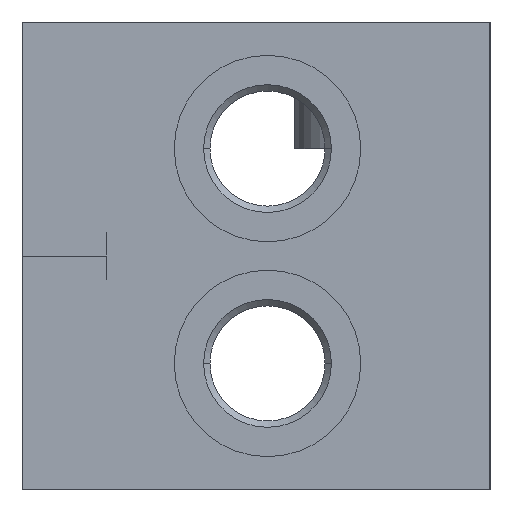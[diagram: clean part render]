
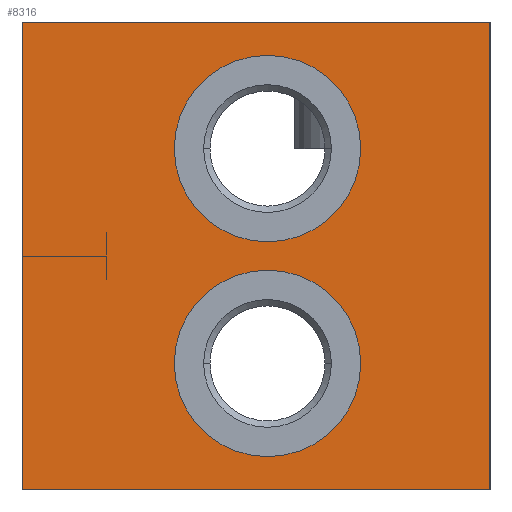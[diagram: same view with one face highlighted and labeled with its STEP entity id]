
A CAD part, left-side view. The second image highlights one B-rep face of the part: STEP entity #8316.
In plain terms, the highlighted planar face has unit normal (-1, 0, 0).
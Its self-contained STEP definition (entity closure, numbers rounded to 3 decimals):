
#25=DIRECTION('',(0.,-1.,0.));
#26=VECTOR('',#25,61.);
#27=CARTESIAN_POINT('',(0.,61.,0.));
#28=LINE('',#27,#26);
#217=DIRECTION('',(0.,0.,-1.));
#218=VECTOR('',#217,61.);
#219=CARTESIAN_POINT('',(0.,0.,0.));
#220=LINE('',#219,#218);
#1613=DIRECTION('',(0.,0.,-1.));
#1614=VECTOR('',#1613,61.);
#1615=CARTESIAN_POINT('',(0.,61.,0.));
#1616=LINE('',#1615,#1614);
#1617=CARTESIAN_POINT('',(0.,29.,-44.5));
#1618=DIRECTION('',(1.,0.,0.));
#1619=DIRECTION('',(0.,-1.,0.));
#1620=AXIS2_PLACEMENT_3D('',#1617,#1618,#1619);
#1622=CARTESIAN_POINT('',(0.,29.,-44.5));
#1623=DIRECTION('',(1.,0.,0.));
#1624=DIRECTION('',(0.,1.,0.));
#1625=AXIS2_PLACEMENT_3D('',#1622,#1623,#1624);
#1627=CARTESIAN_POINT('',(0.,29.,-16.5));
#1628=DIRECTION('',(1.,0.,0.));
#1629=DIRECTION('',(0.,-1.,0.));
#1630=AXIS2_PLACEMENT_3D('',#1627,#1628,#1629);
#1632=CARTESIAN_POINT('',(0.,29.,-16.5));
#1633=DIRECTION('',(1.,0.,0.));
#1634=DIRECTION('',(0.,1.,0.));
#1635=AXIS2_PLACEMENT_3D('',#1632,#1633,#1634);
#1649=DIRECTION('',(0.,-1.,0.));
#1650=VECTOR('',#1649,61.);
#1651=CARTESIAN_POINT('',(0.,61.,-61.));
#1652=LINE('',#1651,#1650);
#6443=CARTESIAN_POINT('',(0.,0.,0.));
#6445=VERTEX_POINT('',#6443);
#6449=CARTESIAN_POINT('',(0.,61.,0.));
#6450=VERTEX_POINT('',#6449);
#6451=CARTESIAN_POINT('',(0.,0.,-61.));
#6453=VERTEX_POINT('',#6451);
#6457=CARTESIAN_POINT('',(0.,61.,-61.));
#6458=VERTEX_POINT('',#6457);
#6471=CARTESIAN_POINT('',(0.,16.85,-44.5));
#6472=CARTESIAN_POINT('',(0.,41.15,-44.5));
#6473=VERTEX_POINT('',#6471);
#6474=VERTEX_POINT('',#6472);
#6487=CARTESIAN_POINT('',(0.,16.85,-16.5));
#6488=CARTESIAN_POINT('',(0.,41.15,-16.5));
#6489=VERTEX_POINT('',#6487);
#6490=VERTEX_POINT('',#6488);
#8292=CARTESIAN_POINT('',(0.,61.,0.));
#8293=DIRECTION('',(-1.,0.,0.));
#8294=DIRECTION('',(0.,-1.,0.));
#8295=AXIS2_PLACEMENT_3D('',#8292,#8293,#8294);
#8296=PLANE('',#8295);
#8297=ORIENTED_EDGE('',*,*,#7676,.T.);
#8298=ORIENTED_EDGE('',*,*,#7803,.T.);
#8300=ORIENTED_EDGE('',*,*,#8299,.F.);
#8301=ORIENTED_EDGE('',*,*,#7882,.F.);
#8302=EDGE_LOOP('',(#8297,#8298,#8300,#8301));
#8303=FACE_OUTER_BOUND('',#8302,.F.);
#8305=ORIENTED_EDGE('',*,*,#8304,.F.);
#8307=ORIENTED_EDGE('',*,*,#8306,.F.);
#8308=EDGE_LOOP('',(#8305,#8307));
#8309=FACE_BOUND('',#8308,.F.);
#8311=ORIENTED_EDGE('',*,*,#8310,.F.);
#8313=ORIENTED_EDGE('',*,*,#8312,.F.);
#8314=EDGE_LOOP('',(#8311,#8313));
#8315=FACE_BOUND('',#8314,.F.);
#1621=CIRCLE('',#1620,12.15);
#1626=CIRCLE('',#1625,12.15);
#1631=CIRCLE('',#1630,12.15);
#1636=CIRCLE('',#1635,12.15);
#7676=EDGE_CURVE('',#6450,#6445,#28,.T.);
#7803=EDGE_CURVE('',#6445,#6453,#220,.T.);
#7882=EDGE_CURVE('',#6450,#6458,#1616,.T.);
#8299=EDGE_CURVE('',#6458,#6453,#1652,.T.);
#8304=EDGE_CURVE('',#6473,#6474,#1621,.T.);
#8306=EDGE_CURVE('',#6474,#6473,#1626,.T.);
#8310=EDGE_CURVE('',#6489,#6490,#1631,.T.);
#8312=EDGE_CURVE('',#6490,#6489,#1636,.T.);
#8316=ADVANCED_FACE('',(#8303,#8309,#8315),#8296,.T.);
